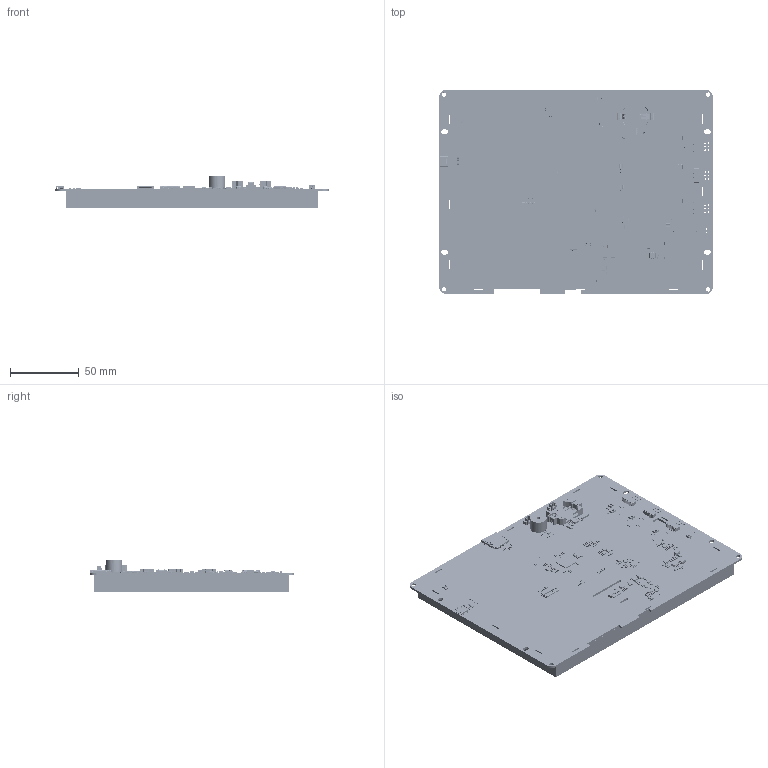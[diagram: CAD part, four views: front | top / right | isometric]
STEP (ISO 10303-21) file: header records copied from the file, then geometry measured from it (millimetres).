
FILE_DESCRIPTION(/* description */ ('Open CASCADE Model'),/* implementation_level */ '2;1');
FILE_NAME(/* name */ 'P80600-080P-L0101.stp',/* time_stamp */ '2025-11-03T11:23:12-03:00',/* author */ ('Reservaa'),/* organization */ ('Open CASCADE'),/* preprocessor_version */ 'ST-DEVELOPER v20',/* originating_system */ 'Autodesk Inventor 2024',/* authorisation */ 'Unknown');
FILE_SCHEMA (('AUTOMOTIVE_DESIGN { 1 0 10303 214 3 1 1 }'));
Products named in the file (315): PCB; Board; Open CASCADE STEP translator 7.5 6.1.1; R96; R95; R94; C92; USB1; USB20_MICRO_SMD_W; Open CASCADE STEP translator 7.5 6.6.1.1; Open CASCADE STEP translator 7.5 6.6.1.2; Open CASCADE STEP translator 7.5 6.6.1.3; Open CASCADE STEP translator 7.5 6.6.1.4; Open CASCADE STEP translator 7.5 6.6.1.5; Open CASCADE STEP translator 7.5 6.6.1.6; Open CASCADE STEP translator 7.5 6.6.1.7; CN2; R87; R86; R68; R67; R66; R65; R64; R63; R37; R36; D39; D38; BUZZER1; Buzzi_1209; U10; User Library-CSYTAL-MC146; R93; R92; R91; R90; R89; R88; D37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
Assembly tree (552 placements, depth 4):
  PCB
    Board
      Open CASCADE STEP translator 7.5 6.1.1
    R96
      0603R
    R95
      0603R
    R94
      0603R
    C92
      Capacitor 0603 SMD
        User Library-cap0603_cap0603_body_??
        User Library-cap0603_pad_0603_??
    USB1
      USB20_MICRO_SMD_W
        Open CASCADE STEP translator 7.5 6.6.1.1
        Open CASCADE STEP translator 7.5 6.6.1.2
        Open CASCADE STEP translator 7.5 6.6.1.3
        Open CASCADE STEP translator 7.5 6.6.1.4
        Open CASCADE STEP translator 7.5 6.6.1.5
        Open CASCADE STEP translator 7.5 6.6.1.6
        Open CASCADE STEP translator 7.5 6.6.1.7
    CN2
      CONN-SMD_2P-P1.25_HDGC_1.25K-BH-2PB
        Open CASCADE STEP translator 7.5 6.7.1.1
        Open CASCADE STEP translator 7.5 6.7.1.2
        Open CASCADE STEP translator 7.5 6.7.1.3
    R87
      0603R
    R86
      0603R
    R68
      0603R
    R67
      0603R
    R66
      0603R
    R65
      0603R
    R64
      0603R
    R63
      0603R
    R37
      0603R
    R36
      0603R
    D39
      User Library-SOD-123_DiodesInc
    D38
      User Library-SOD-123_DiodesInc
    BUZZER1
      Buzzi_1209
    U10
      User Library-CSYTAL-MC146
    R93
      0603R
    R92
      0603R
    R91
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Bounding box: 199.5 x 148.8 x 23.36 mm (x, y, z)
Volume: 361817 mm3; surface area: 182704.5 mm2
Topology: 711 solids, 711 shells, 23814 faces, 62032 edges, 39100 vertices
Faces by surface type: plane 14754, cylinder 4957, bspline 2611, sphere 966, torus 488, cone 38
Full cylindrical faces by diameter (mm): 0.17 x24, 0.3 x2, 0.6 x4, 0.65 x2, 0.8 x3, 1 x3, 1.1 x25, 1.2 x2, 1.5 x7, 1.8 x1, 2 x5, 2.5 x1, 2.83 x4, 3.2 x4, 7.517 x1, 12 x1
Entity records: 313372 total; most frequent: CARTESIAN_POINT 86293, ORIENTED_EDGE 46228, DIRECTION 41879, EDGE_CURVE 23114, LINE 18215, VECTOR 18215, VERTEX_POINT 14967, AXIS2_PLACEMENT_3D 11832
